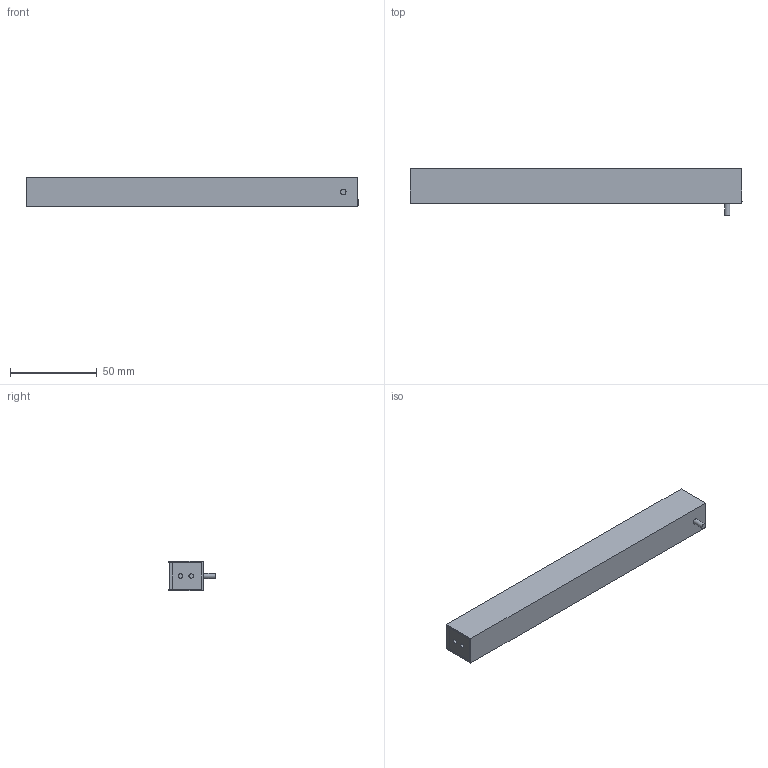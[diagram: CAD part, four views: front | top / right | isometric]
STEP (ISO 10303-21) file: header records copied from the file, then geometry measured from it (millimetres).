
FILE_DESCRIPTION(/* description */ (''),/* implementation_level */ '2;1');
FILE_NAME(/* name */ 'C:\#Vault-WorkDir\Konstruktions-Dokumente\Projekte\Zubehör allgemein\Falcon Beleuchtungen\153-00756_LB 180 xD-24-KFL5.stp',/* time_stamp */ '2018-07-26T09:09:19+02:00',/* author */ ('SensoPart'),/* organization */ ('SensoPart'),/* preprocessor_version */ 'ST-DEVELOPER v17',/* originating_system */ 'Autodesk Inventor 2018',/* authorisation */ '');
FILE_SCHEMA (('AUTOMOTIVE_DESIGN { 1 0 10303 214 3 1 1 }'));
Length unit declared in the file: millimetre
Products named in the file (1): GH-ENG-0026541_Shrinkwrap_1
Bounding box: 191 x 27 x 17.2 mm (x, y, z)
Volume: 63883.6 mm3; surface area: 29564.8 mm2
Topology: 1 solids, 1 shells, 38 faces, 96 edges, 68 vertices
Faces by surface type: plane 26, cylinder 10, cone 2
Full cylindrical faces by diameter (mm): 2 x2, 2.4 x2, 2.5 x4, 3.1 x1, 3.2 x1
Entity records: 1382 total; most frequent: CARTESIAN_POINT 293, DIRECTION 214, ORIENTED_EDGE 200, EDGE_CURVE 100, AXIS2_PLACEMENT_3D 77, VERTEX_POINT 72, LINE 60, VECTOR 60
